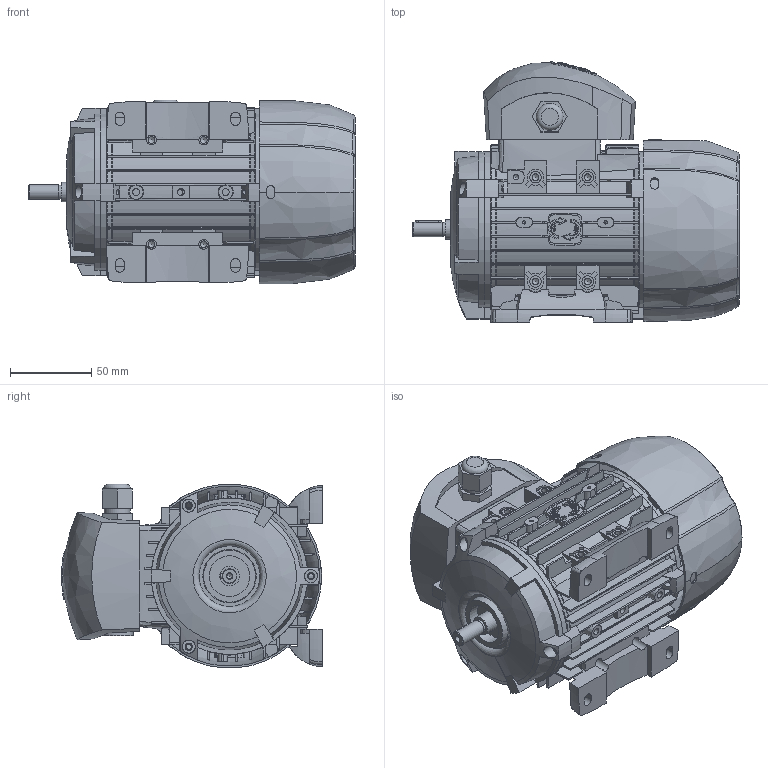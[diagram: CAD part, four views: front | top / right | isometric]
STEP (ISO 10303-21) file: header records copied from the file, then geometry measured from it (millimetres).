
FILE_DESCRIPTION((''),'2;1');
FILE_NAME('D:\htdocs\motive\source_step\M56.stp','2014-09-04T17:37:47',('ing.Casini'),(''),'Autodesk Inventor 2010','Autodesk Inventor 2010','');
FILE_SCHEMA(('AUTOMOTIVE_DESIGN { 1 0 10303 214 1 1 1 1 }'));
Length unit declared in the file: millimetre
Products named in the file (8): M56 Lighter motor Assly_09.08; BODY56; B356; SH56; NDE56_2; FEET56_1; TBOX_56; FCV56
Assembly tree (8 placements, depth 2):
  M56 Lighter motor Assly_09.08
    BODY56
    B356
    SH56
    NDE56_2
    FEET56_1  x2
    TBOX_56
    FCV56
Bounding box: 200.65 x 160.08 x 112.83 mm (x, y, z)
Volume: 535961.8 mm3; surface area: 267118.6 mm2
Topology: 9 solids, 9 shells, 1875 faces, 5280 edges, 3485 vertices
Faces by surface type: plane 641, bspline 486, cylinder 473, cone 161, torus 98, sphere 16
Full cylindrical faces by diameter (mm): 1 x1, 2 x4, 3.3 x12, 4 x1, 4.2 x23, 4.5 x6, 6 x4, 7 x12, 8 x6, 8.6 x1, 9 x1, 12 x3, 16 x1, 20 x1, 24 x2, 25 x2, 32 x3, 37.3 x1, 37.415 x1, 90 x2, 91 x2
Entity records: 88799 total; most frequent: CARTESIAN_POINT 45677, ORIENTED_EDGE 9856, DIRECTION 7575, EDGE_CURVE 4928, VERTEX_POINT 3339, AXIS2_PLACEMENT_3D 2985, EDGE_LOOP 2107, FACE_OUTER_BOUND 1820
